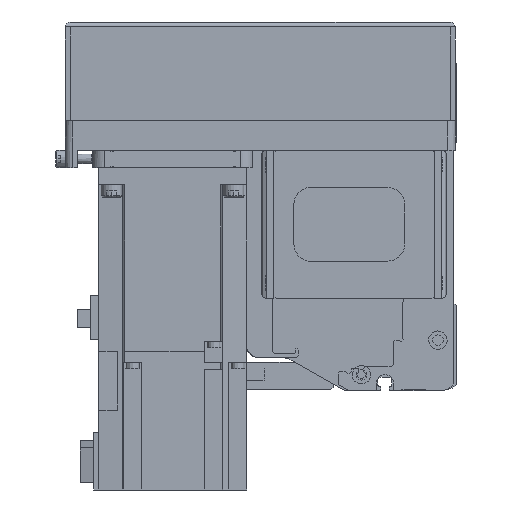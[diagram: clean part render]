
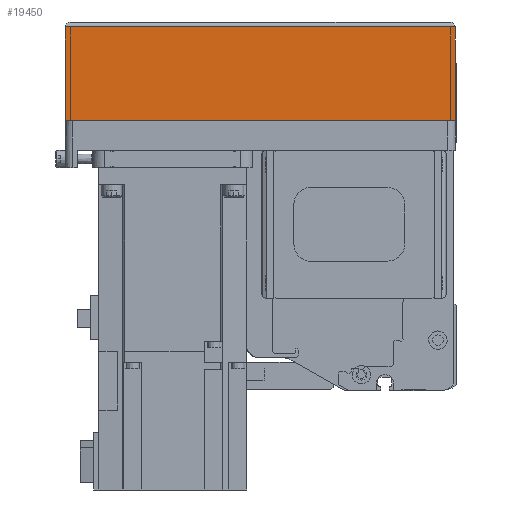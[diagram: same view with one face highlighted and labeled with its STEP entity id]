
A CAD part, left-side view. The second image highlights one B-rep face of the part: STEP entity #19450.
In plain terms, the highlighted planar face has unit normal (-1, 0, 0) as drawn and (0, 1, 0) by its records, which use the part's own axes.
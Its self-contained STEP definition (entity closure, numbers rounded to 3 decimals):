
#2982=ORIENTED_EDGE('',*,*,#7787,.F.);
#2983=ORIENTED_EDGE('',*,*,#7856,.F.);
#2984=ORIENTED_EDGE('',*,*,#7804,.T.);
#2985=ORIENTED_EDGE('',*,*,#7779,.T.);
#7779=EDGE_CURVE('',#10368,#10367,#12357,.T.);
#7787=EDGE_CURVE('',#10375,#10367,#12365,.T.);
#7804=EDGE_CURVE('',#10385,#10368,#12378,.T.);
#7856=EDGE_CURVE('',#10385,#10375,#12407,.T.);
#10367=VERTEX_POINT('',#29798);
#10368=VERTEX_POINT('',#29800);
#10375=VERTEX_POINT('',#29817);
#10385=VERTEX_POINT('',#29848);
#12357=LINE('',#29799,#14067);
#12365=LINE('',#29816,#14075);
#12378=LINE('',#29847,#14088);
#12407=LINE('',#29942,#14117);
#14067=VECTOR('',#23841,1000.);
#14075=VECTOR('',#23853,1000.);
#14088=VECTOR('',#23882,1000.);
#14117=VECTOR('',#23999,1000.);
#15654=EDGE_LOOP('',(#2982,#2983,#2984,#2985));
#17244=FACE_BOUND('',#15654,.T.);
#18663=PLANE('',#20859);
#19450=ADVANCED_FACE('',(#17244),#18663,.T.);
#20859=AXIS2_PLACEMENT_3D('',#29941,#23997,#23998);
#23841=DIRECTION('',(1.,0.,0.));
#23853=DIRECTION('',(0.,0.,1.));
#23882=DIRECTION('',(0.,0.,1.));
#23997=DIRECTION('',(0.,1.,0.));
#23998=DIRECTION('',(0.,0.,1.));
#23999=DIRECTION('',(1.,0.,0.));
#29798=CARTESIAN_POINT('',(0.,39.,-12.1));
#29799=CARTESIAN_POINT('',(-158.,39.,-12.1));
#29800=CARTESIAN_POINT('',(-158.,39.,-12.1));
#29816=CARTESIAN_POINT('',(0.,39.,-50.));
#29817=CARTESIAN_POINT('',(0.,39.,-50.));
#29847=CARTESIAN_POINT('',(-158.,39.,-50.));
#29848=CARTESIAN_POINT('',(-158.,39.,-50.));
#29941=CARTESIAN_POINT('',(-158.,39.,-50.));
#29942=CARTESIAN_POINT('',(-158.,39.,-50.));
